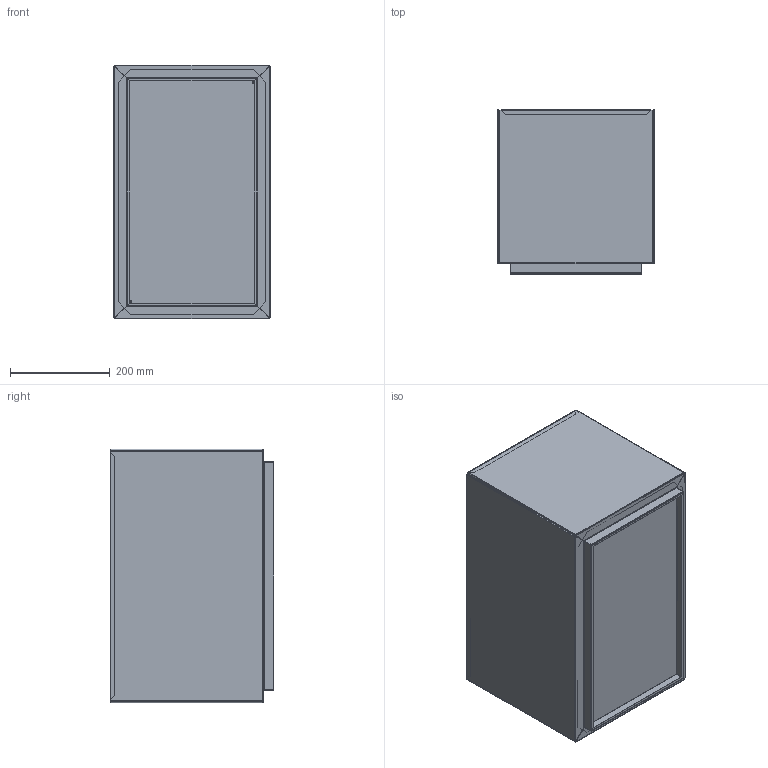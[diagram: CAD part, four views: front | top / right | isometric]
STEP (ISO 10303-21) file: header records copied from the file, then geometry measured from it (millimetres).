
FILE_DESCRIPTION((''),'2;1');
FILE_NAME('22063_ASM','2023-07-10T15:16:33',('joshb'),(''),'CREO PARAMETRIC BY PTC INC, 2019344','CREO PARAMETRIC BY PTC INC, 2019344','');
FILE_SCHEMA(('CONFIG_CONTROL_DESIGN'));
Length unit declared in the file: inch
Products named in the file (4): 22057-012-XXX; 22057-020-XXX; 22062-020-XXX; 22063_ASM
Assembly tree (5 placements, depth 2):
  22063_ASM
    22057-012-XXX  x2
    22057-020-XXX  x2
    22062-020-XXX
Bounding box: 313.08 x 327.95 x 508 mm (x, y, z)
Volume: 715880.7 mm3; surface area: 1578987.6 mm2
Topology: 5 solids, 5 shells, 722 faces, 1810 edges, 1074 vertices
Faces by surface type: plane 426, bspline 156, cylinder 140
Entity records: 14432 total; most frequent: CARTESIAN_POINT 6002, ORIENTED_EDGE 1846, DIRECTION 1456, EDGE_CURVE 923, VECTOR 666, LINE 666, VERTEX_POINT 549, EDGE_LOOP 412
